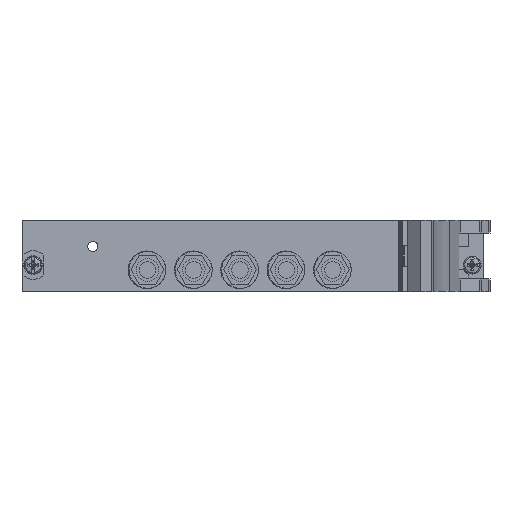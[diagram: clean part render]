
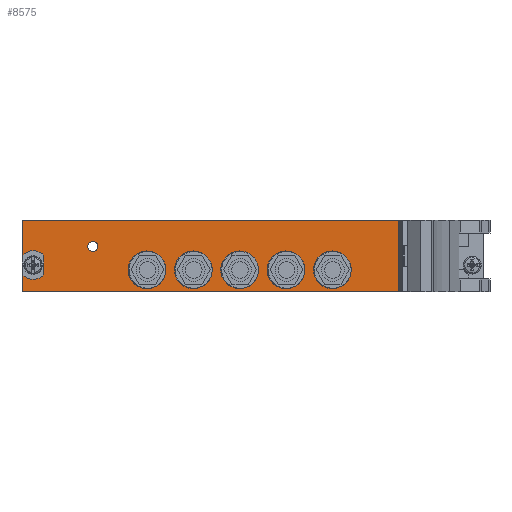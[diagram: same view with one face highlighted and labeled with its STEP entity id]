
A CAD part, left-side view. The second image highlights one B-rep face of the part: STEP entity #8575.
In plain terms, the highlighted planar face has unit normal (-1, 0, 0).
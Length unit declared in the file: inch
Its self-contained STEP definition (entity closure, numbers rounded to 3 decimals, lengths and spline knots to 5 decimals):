
#386=DIRECTION('',(0.,0.,1.));
#387=VECTOR('',#386,0.788);
#388=CARTESIAN_POINT('',(-0.205,-3.57126,-0.092));
#389=LINE('',#388,#387);
#390=DIRECTION('',(0.,-1.,0.));
#391=VECTOR('',#390,4.1357);
#392=CARTESIAN_POINT('',(-0.205,0.56444,-0.092));
#393=LINE('',#392,#391);
#394=DIRECTION('',(0.,0.,-1.));
#395=VECTOR('',#394,0.788);
#396=CARTESIAN_POINT('',(-0.205,0.56444,0.696));
#397=LINE('',#396,#395);
#398=DIRECTION('',(0.,1.,0.));
#399=VECTOR('',#398,4.1357);
#400=CARTESIAN_POINT('',(-0.205,-3.57126,0.696));
#401=LINE('',#400,#399);
#402=CARTESIAN_POINT('',(-0.205,-0.21356,0.407));
#403=DIRECTION('',(1.,0.,0.));
#404=DIRECTION('',(0.,1.,0.));
#405=AXIS2_PLACEMENT_3D('',#402,#403,#404);
#407=CARTESIAN_POINT('',(-0.205,-0.21356,0.407));
#408=DIRECTION('',(1.,0.,0.));
#409=DIRECTION('',(0.,-1.,0.));
#410=AXIS2_PLACEMENT_3D('',#407,#408,#409);
#412=CARTESIAN_POINT('',(-0.205,-0.80756,0.15));
#413=DIRECTION('',(-1.,0.,0.));
#414=DIRECTION('',(0.,-1.,0.));
#415=AXIS2_PLACEMENT_3D('',#412,#413,#414);
#417=CARTESIAN_POINT('',(-0.205,-0.80756,0.15));
#418=DIRECTION('',(-1.,0.,0.));
#419=DIRECTION('',(0.,1.,0.));
#420=AXIS2_PLACEMENT_3D('',#417,#418,#419);
#422=CARTESIAN_POINT('',(-0.205,-1.31626,0.15));
#423=DIRECTION('',(-1.,0.,0.));
#424=DIRECTION('',(0.,-1.,0.));
#425=AXIS2_PLACEMENT_3D('',#422,#423,#424);
#427=CARTESIAN_POINT('',(-0.205,-1.31626,0.15));
#428=DIRECTION('',(-1.,0.,0.));
#429=DIRECTION('',(0.,1.,0.));
#430=AXIS2_PLACEMENT_3D('',#427,#428,#429);
#432=CARTESIAN_POINT('',(-0.205,-1.82496,0.15));
#433=DIRECTION('',(-1.,0.,0.));
#434=DIRECTION('',(0.,-1.,0.));
#435=AXIS2_PLACEMENT_3D('',#432,#433,#434);
#437=CARTESIAN_POINT('',(-0.205,-1.82496,0.15));
#438=DIRECTION('',(-1.,0.,0.));
#439=DIRECTION('',(0.,1.,0.));
#440=AXIS2_PLACEMENT_3D('',#437,#438,#439);
#442=CARTESIAN_POINT('',(-0.205,-2.33366,0.15));
#443=DIRECTION('',(-1.,0.,0.));
#444=DIRECTION('',(0.,-1.,0.));
#445=AXIS2_PLACEMENT_3D('',#442,#443,#444);
#447=CARTESIAN_POINT('',(-0.205,-2.33366,0.15));
#448=DIRECTION('',(-1.,0.,0.));
#449=DIRECTION('',(0.,1.,0.));
#450=AXIS2_PLACEMENT_3D('',#447,#448,#449);
#452=CARTESIAN_POINT('',(-0.205,-2.84236,0.15));
#453=DIRECTION('',(-1.,0.,0.));
#454=DIRECTION('',(0.,-1.,0.));
#455=AXIS2_PLACEMENT_3D('',#452,#453,#454);
#457=CARTESIAN_POINT('',(-0.205,-2.84236,0.15));
#458=DIRECTION('',(-1.,0.,0.));
#459=DIRECTION('',(0.,1.,0.));
#460=AXIS2_PLACEMENT_3D('',#457,#458,#459);
#462=CARTESIAN_POINT('',(-0.205,0.44244,0.202));
#463=DIRECTION('',(-1.,0.,0.));
#464=DIRECTION('',(0.,-0.752,0.659));
#465=AXIS2_PLACEMENT_3D('',#462,#463,#464);
#467=DIRECTION('',(0.,0.,1.));
#468=VECTOR('',#467,0.2075);
#469=CARTESIAN_POINT('',(-0.205,0.56094,0.09825));
#470=LINE('',#469,#468);
#471=CARTESIAN_POINT('',(-0.205,0.44244,0.202));
#472=DIRECTION('',(-1.,0.,0.));
#473=DIRECTION('',(0.,0.752,-0.659));
#474=AXIS2_PLACEMENT_3D('',#471,#472,#473);
#476=DIRECTION('',(0.,0.,-1.));
#477=VECTOR('',#476,0.2075);
#478=CARTESIAN_POINT('',(-0.205,0.32394,0.30575));
#479=LINE('',#478,#477);
#6782=CARTESIAN_POINT('',(-0.205,0.56444,0.696));
#6783=CARTESIAN_POINT('',(-0.205,0.56444,-0.092));
#6784=VERTEX_POINT('',#6782);
#6785=VERTEX_POINT('',#6783);
#6808=CARTESIAN_POINT('',(-0.205,-0.15806,0.407));
#6809=CARTESIAN_POINT('',(-0.205,-0.26906,0.407));
#6810=VERTEX_POINT('',#6808);
#6811=VERTEX_POINT('',#6809);
#6816=CARTESIAN_POINT('',(-0.205,-1.01456,0.15));
#6817=CARTESIAN_POINT('',(-0.205,-0.60056,0.15));
#6818=VERTEX_POINT('',#6816);
#6819=VERTEX_POINT('',#6817);
#6822=CARTESIAN_POINT('',(-0.205,-1.52326,0.15));
#6823=CARTESIAN_POINT('',(-0.205,-1.10926,0.15));
#6824=VERTEX_POINT('',#6822);
#6825=VERTEX_POINT('',#6823);
#6832=CARTESIAN_POINT('',(-0.205,-2.03196,0.15));
#6833=CARTESIAN_POINT('',(-0.205,-1.61796,0.15));
#6834=VERTEX_POINT('',#6832);
#6835=VERTEX_POINT('',#6833);
#6842=CARTESIAN_POINT('',(-0.205,-2.54066,0.15));
#6843=CARTESIAN_POINT('',(-0.205,-2.12666,0.15));
#6844=VERTEX_POINT('',#6842);
#6845=VERTEX_POINT('',#6843);
#6852=CARTESIAN_POINT('',(-0.205,-3.04936,0.15));
#6853=CARTESIAN_POINT('',(-0.205,-2.63536,0.15));
#6854=VERTEX_POINT('',#6852);
#6855=VERTEX_POINT('',#6853);
#6866=CARTESIAN_POINT('',(-0.205,-3.57126,-0.092));
#6867=CARTESIAN_POINT('',(-0.205,-3.57126,0.696));
#6868=VERTEX_POINT('',#6866);
#6869=VERTEX_POINT('',#6867);
#6934=CARTESIAN_POINT('',(-0.205,0.32394,0.30575));
#6935=CARTESIAN_POINT('',(-0.205,0.56094,0.30575));
#6936=VERTEX_POINT('',#6934);
#6937=VERTEX_POINT('',#6935);
#6938=CARTESIAN_POINT('',(-0.205,0.56094,0.09825));
#6939=CARTESIAN_POINT('',(-0.205,0.32394,0.09825));
#6940=VERTEX_POINT('',#6938);
#6941=VERTEX_POINT('',#6939);
#8516=CARTESIAN_POINT('',(-0.205,0.56444,0.696));
#8517=DIRECTION('',(-1.,0.,0.));
#8518=DIRECTION('',(0.,-1.,0.));
#8519=AXIS2_PLACEMENT_3D('',#8516,#8517,#8518);
#8520=PLANE('',#8519);
#8521=ORIENTED_EDGE('',*,*,#8506,.F.);
#8523=ORIENTED_EDGE('',*,*,#8522,.F.);
#8525=ORIENTED_EDGE('',*,*,#8524,.F.);
#8526=ORIENTED_EDGE('',*,*,#8412,.F.);
#8527=EDGE_LOOP('',(#8521,#8523,#8525,#8526));
#8528=FACE_OUTER_BOUND('',#8527,.F.);
#8530=ORIENTED_EDGE('',*,*,#8529,.F.);
#8532=ORIENTED_EDGE('',*,*,#8531,.F.);
#8533=EDGE_LOOP('',(#8530,#8532));
#8534=FACE_BOUND('',#8533,.F.);
#8536=ORIENTED_EDGE('',*,*,#8535,.T.);
#8538=ORIENTED_EDGE('',*,*,#8537,.T.);
#8539=EDGE_LOOP('',(#8536,#8538));
#8540=FACE_BOUND('',#8539,.F.);
#8542=ORIENTED_EDGE('',*,*,#8541,.T.);
#8544=ORIENTED_EDGE('',*,*,#8543,.T.);
#8545=EDGE_LOOP('',(#8542,#8544));
#8546=FACE_BOUND('',#8545,.F.);
#8548=ORIENTED_EDGE('',*,*,#8547,.T.);
#8550=ORIENTED_EDGE('',*,*,#8549,.T.);
#8551=EDGE_LOOP('',(#8548,#8550));
#8552=FACE_BOUND('',#8551,.F.);
#8554=ORIENTED_EDGE('',*,*,#8553,.T.);
#8556=ORIENTED_EDGE('',*,*,#8555,.T.);
#8557=EDGE_LOOP('',(#8554,#8556));
#8558=FACE_BOUND('',#8557,.F.);
#8560=ORIENTED_EDGE('',*,*,#8559,.T.);
#8562=ORIENTED_EDGE('',*,*,#8561,.T.);
#8563=EDGE_LOOP('',(#8560,#8562));
#8564=FACE_BOUND('',#8563,.F.);
#8566=ORIENTED_EDGE('',*,*,#8565,.T.);
#8568=ORIENTED_EDGE('',*,*,#8567,.F.);
#8570=ORIENTED_EDGE('',*,*,#8569,.T.);
#8572=ORIENTED_EDGE('',*,*,#8571,.F.);
#8573=EDGE_LOOP('',(#8566,#8568,#8570,#8572));
#8574=FACE_BOUND('',#8573,.F.);
#8575=ADVANCED_FACE('',(#8528,#8534,#8540,#8546,#8552,#8558,#8564,#8574),#8520,
.T.);
#406=CIRCLE('',#405,0.0555);
#411=CIRCLE('',#410,0.0555);
#416=CIRCLE('',#415,0.207);
#421=CIRCLE('',#420,0.207);
#426=CIRCLE('',#425,0.207);
#431=CIRCLE('',#430,0.207);
#436=CIRCLE('',#435,0.207);
#441=CIRCLE('',#440,0.207);
#446=CIRCLE('',#445,0.207);
#451=CIRCLE('',#450,0.207);
#456=CIRCLE('',#455,0.207);
#461=CIRCLE('',#460,0.207);
#466=CIRCLE('',#465,0.1575);
#475=CIRCLE('',#474,0.1575);
#8412=EDGE_CURVE('',#6869,#6784,#401,.T.);
#8506=EDGE_CURVE('',#6868,#6869,#389,.T.);
#8522=EDGE_CURVE('',#6785,#6868,#393,.T.);
#8524=EDGE_CURVE('',#6784,#6785,#397,.T.);
#8529=EDGE_CURVE('',#6810,#6811,#406,.T.);
#8531=EDGE_CURVE('',#6811,#6810,#411,.T.);
#8535=EDGE_CURVE('',#6818,#6819,#416,.T.);
#8537=EDGE_CURVE('',#6819,#6818,#421,.T.);
#8541=EDGE_CURVE('',#6824,#6825,#426,.T.);
#8543=EDGE_CURVE('',#6825,#6824,#431,.T.);
#8547=EDGE_CURVE('',#6834,#6835,#436,.T.);
#8549=EDGE_CURVE('',#6835,#6834,#441,.T.);
#8553=EDGE_CURVE('',#6844,#6845,#446,.T.);
#8555=EDGE_CURVE('',#6845,#6844,#451,.T.);
#8559=EDGE_CURVE('',#6854,#6855,#456,.T.);
#8561=EDGE_CURVE('',#6855,#6854,#461,.T.);
#8565=EDGE_CURVE('',#6936,#6937,#466,.T.);
#8567=EDGE_CURVE('',#6940,#6937,#470,.T.);
#8569=EDGE_CURVE('',#6940,#6941,#475,.T.);
#8571=EDGE_CURVE('',#6936,#6941,#479,.T.);
